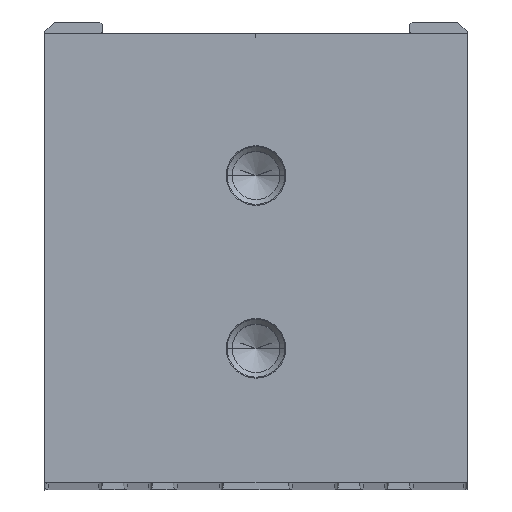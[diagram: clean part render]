
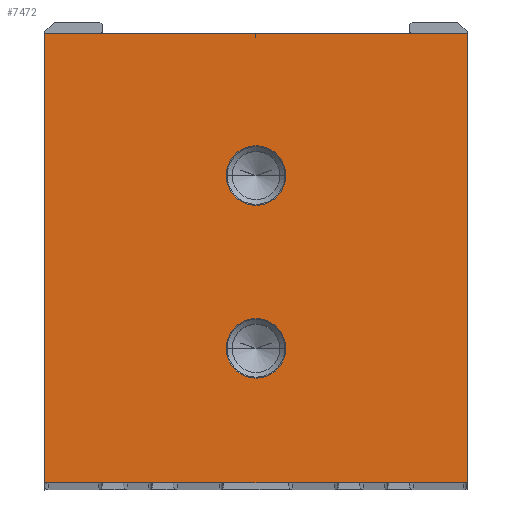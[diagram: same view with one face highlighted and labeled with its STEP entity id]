
A CAD part, top view. The second image highlights one B-rep face of the part: STEP entity #7472.
In plain terms, the highlighted planar face has unit normal (0, 0, 1).
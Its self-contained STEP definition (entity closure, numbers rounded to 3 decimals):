
#2610=DIRECTION('',(-1.,0.,0.));
#2611=VECTOR('',#2610,22.);
#2612=CARTESIAN_POINT('',(11.,11.402,104.5));
#2613=LINE('',#2612,#2611);
#2614=DIRECTION('',(0.,1.,0.));
#2615=VECTOR('',#2614,23.387);
#2616=CARTESIAN_POINT('',(11.,-11.985,104.5));
#2617=LINE('',#2616,#2615);
#2618=DIRECTION('',(1.,0.001,0.));
#2619=VECTOR('',#2618,22.);
#2620=CARTESIAN_POINT('',(-11.,-12.007,104.5));
#2621=LINE('',#2620,#2619);
#2622=DIRECTION('',(0.,-1.,0.));
#2623=VECTOR('',#2622,23.409);
#2624=CARTESIAN_POINT('',(-11.,11.402,104.5));
#2625=LINE('',#2624,#2623);
#2626=CARTESIAN_POINT('',(0.,-4.996,104.5));
#2627=DIRECTION('',(0.,0.,-1.));
#2628=DIRECTION('',(-1.,0.,0.));
#2629=AXIS2_PLACEMENT_3D('',#2626,#2627,#2628);
#2631=CARTESIAN_POINT('',(0.,-4.996,104.5));
#2632=DIRECTION('',(0.,0.,-1.));
#2633=DIRECTION('',(1.,0.,0.));
#2634=AXIS2_PLACEMENT_3D('',#2631,#2632,#2633);
#2636=CARTESIAN_POINT('',(0.,4.004,
104.5));
#2637=DIRECTION('',(0.,0.,-1.));
#2638=DIRECTION('',(-1.,0.,0.));
#2639=AXIS2_PLACEMENT_3D('',#2636,#2637,#2638);
#2641=CARTESIAN_POINT('',(0.,4.004,
104.5));
#2642=DIRECTION('',(0.,0.,-1.));
#2643=DIRECTION('',(1.,0.,0.));
#2644=AXIS2_PLACEMENT_3D('',#2641,#2642,#2643);
#3010=CARTESIAN_POINT('',(-11.,11.402,104.5));
#3011=CARTESIAN_POINT('',(-11.,-12.007,104.5));
#3012=VERTEX_POINT('',#3010);
#3013=VERTEX_POINT('',#3011);
#3014=CARTESIAN_POINT('',(11.,-11.985,104.5));
#3015=VERTEX_POINT('',#3014);
#3016=CARTESIAN_POINT('',(11.,11.402,104.5));
#3017=VERTEX_POINT('',#3016);
#3806=CARTESIAN_POINT('',(-1.55,-4.996,
104.5));
#3807=CARTESIAN_POINT('',(1.55,-4.996,104.5));
#3808=VERTEX_POINT('',#3806);
#3809=VERTEX_POINT('',#3807);
#3814=CARTESIAN_POINT('',(-1.55,4.004,104.5));
#3815=CARTESIAN_POINT('',(1.55,4.004,104.5));
#3816=VERTEX_POINT('',#3814);
#3817=VERTEX_POINT('',#3815);
#7449=CARTESIAN_POINT('',(0.,0.,104.5));
#7450=DIRECTION('',(0.,0.,1.));
#7451=DIRECTION('',(1.,0.,0.));
#7452=AXIS2_PLACEMENT_3D('',#7449,#7450,#7451);
#7453=PLANE('',#7452);
#7454=ORIENTED_EDGE('',*,*,#3887,.F.);
#7455=ORIENTED_EDGE('',*,*,#3982,.F.);
#7456=ORIENTED_EDGE('',*,*,#4808,.F.);
#7457=ORIENTED_EDGE('',*,*,#4135,.F.);
#7458=EDGE_LOOP('',(#7454,#7455,#7456,#7457));
#7459=FACE_OUTER_BOUND('',#7458,.F.);
#7461=ORIENTED_EDGE('',*,*,#7460,.F.);
#7463=ORIENTED_EDGE('',*,*,#7462,.F.);
#7464=EDGE_LOOP('',(#7461,#7463));
#7465=FACE_BOUND('',#7464,.F.);
#7467=ORIENTED_EDGE('',*,*,#7466,.F.);
#7469=ORIENTED_EDGE('',*,*,#7468,.F.);
#7470=EDGE_LOOP('',(#7467,#7469));
#7471=FACE_BOUND('',#7470,.F.);
#2630=CIRCLE('',#2629,1.55);
#2635=CIRCLE('',#2634,1.55);
#2640=CIRCLE('',#2639,1.55);
#2645=CIRCLE('',#2644,1.55);
#3887=EDGE_CURVE('',#3017,#3012,#2613,.T.);
#3982=EDGE_CURVE('',#3015,#3017,#2617,.T.);
#4135=EDGE_CURVE('',#3012,#3013,#2625,.T.);
#4808=EDGE_CURVE('',#3013,#3015,#2621,.T.);
#7460=EDGE_CURVE('',#3808,#3809,#2630,.T.);
#7462=EDGE_CURVE('',#3809,#3808,#2635,.T.);
#7466=EDGE_CURVE('',#3816,#3817,#2640,.T.);
#7468=EDGE_CURVE('',#3817,#3816,#2645,.T.);
#7472=ADVANCED_FACE('',(#7459,#7465,#7471),#7453,.T.);
